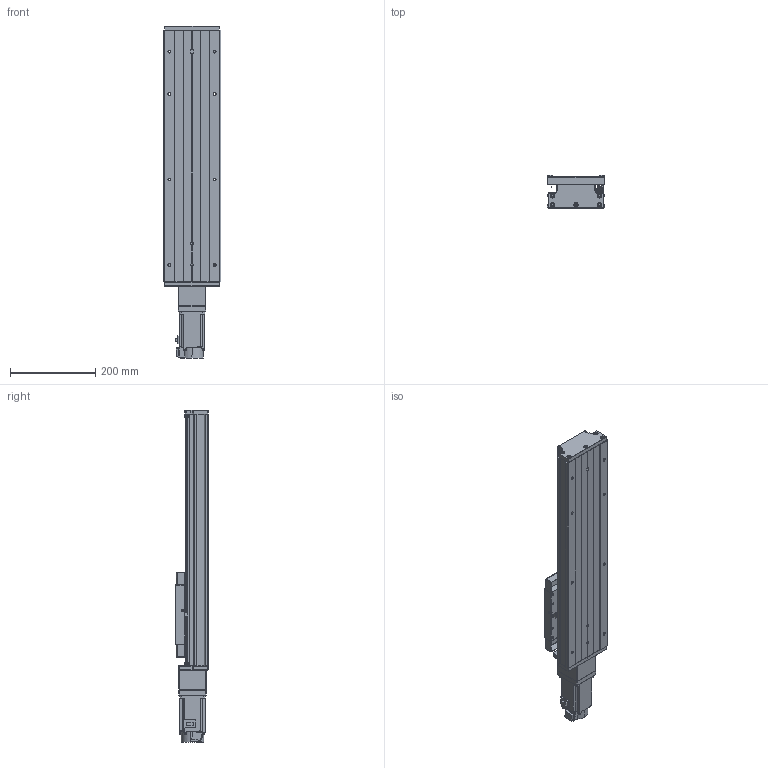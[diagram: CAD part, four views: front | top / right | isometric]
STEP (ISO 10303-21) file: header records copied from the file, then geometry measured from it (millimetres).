
FILE_DESCRIPTION (( 'STEP AP203' ), '1' );
FILE_NAME ('GTH14-350-BC-M40-C4.step', '2023-06-30T08:33:41', ( '微软用户' ), ( '微软中国' ), 'SwSTEP 2.0', 'SolidWorks 2020', '' );
FILE_SCHEMA (( 'CONFIG_CONTROL_DESIGN' ));
Length unit declared in the file: millimetre
Products named in the file (20): CTHA60-017; CTHA86-006-1_M40; GTH14-002_GTH14-002; EE_SX911P_R; CTHA86-013; GTH14-004; CTHA60-016; CTHA86-027-1; GTH14-005; GBT 70.1-M3℅5; HG-KN43J-S100; GB1155-6X6; GBT77-2000 M3×3; GBT 70.3-M3℅8; GBT70.1 M5℅16; GTH14-031; GTH14-350-BC-M40-C4; GBT 70.2-M3¡Á5_M3¡Á6; す晦芛蹟隊 M3℅5; GTH14-001_350
Assembly tree (57 placements, depth 2):
  GTH14-350-BC-M40-C4
    GTH14-001_350
    GTH14-002_GTH14-002
    GTH14-004
    GTH14-005
    GB1155-6X6  x2
    GBT70.1 M5℅16  x10
    GBT 70.2-M3¡Á5_M3¡Á6  x8
    CTHA60-017  x3
    EE_SX911P_R  x3
    CTHA60-016  x2
    GBT 70.1-M3℅5  x6
    GBT77-2000 M3×3  x6
    GTH14-031
    す晦芛蹟隊 M3℅5  x6
    CTHA86-006-1_M40
    CTHA86-013
    CTHA86-027-1
    HG-KN43J-S100
    GBT 70.3-M3℅8  x2
Bounding box: 135 x 78 x 778.7 mm (x, y, z)
Volume: 3929569.8 mm3; surface area: 656085.3 mm2
Topology: 60 solids, 60 shells, 2404 faces, 5733 edges, 3538 vertices
Faces by surface type: plane 1300, cylinder 640, cone 304, torus 120, sphere 20, bspline 20
Entity records: 44112 total; most frequent: CARTESIAN_POINT 9847, DIRECTION 6456, ORIENTED_EDGE 6350, EDGE_CURVE 3175, AXIS2_PLACEMENT_3D 2191, LINE 2074, VECTOR 2074, VERTEX_POINT 2006
